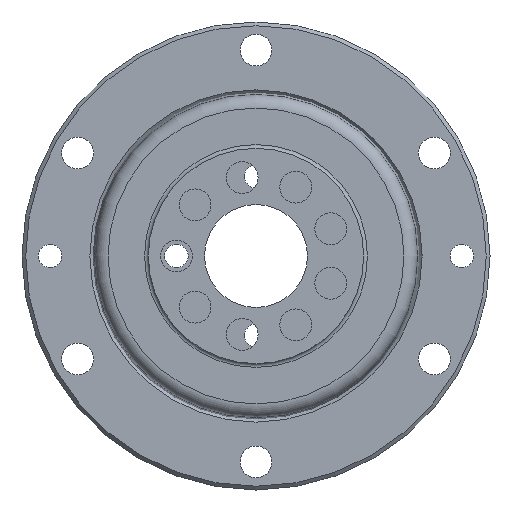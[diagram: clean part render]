
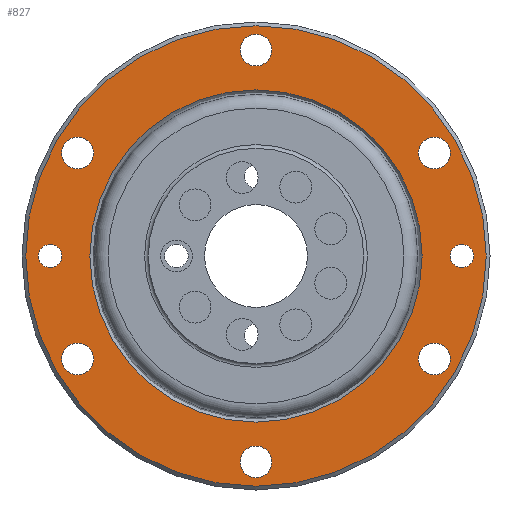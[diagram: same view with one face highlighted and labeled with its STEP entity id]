
A CAD part, left-side view. The second image highlights one B-rep face of the part: STEP entity #827.
In plain terms, the highlighted planar face has unit normal (-1, 0, 0).
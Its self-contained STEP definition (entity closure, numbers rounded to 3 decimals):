
#18 = CARTESIAN_POINT ( 'NONE',  ( 6.5, -19.053, 12.7 ) ) ;
#47 = VERTEX_POINT ( 'NONE', #2122 ) ;
#62 = FACE_OUTER_BOUND ( 'NONE', #271, .T. ) ;
#210 = EDGE_LOOP ( 'NONE', ( #3764 ) ) ;
#271 = EDGE_LOOP ( 'NONE', ( #3661 ) ) ;
#389 = AXIS2_PLACEMENT_3D ( 'NONE', #4024, #2137, #1169 ) ;
#396 = EDGE_LOOP ( 'NONE', ( #977 ) ) ;
#451 = CARTESIAN_POINT ( 'NONE',  ( 6.5, -22., 0. ) ) ;
#468 = CARTESIAN_POINT ( 'NONE',  ( 6.5, 0., -24.6 ) ) ;
#530 = AXIS2_PLACEMENT_3D ( 'NONE', #3276, #802, #3706 ) ;
#556 = AXIS2_PLACEMENT_3D ( 'NONE', #727, #3634, #3611 ) ;
#597 = ORIENTED_EDGE ( 'NONE', *, *, #1243, .T. ) ;
#622 = AXIS2_PLACEMENT_3D ( 'NONE', #3490, #1017, #3916 ) ;
#628 = CIRCLE ( 'NONE', #657, 1.7 ) ;
#629 = AXIS2_PLACEMENT_3D ( 'NONE', #451, #3342, #865 ) ;
#657 = AXIS2_PLACEMENT_3D ( 'NONE', #1171, #4072, #1572 ) ;
#718 = CIRCLE ( 'NONE', #389, 1.7 ) ;
#727 = CARTESIAN_POINT ( 'NONE',  ( 6.5, 19.053, -11. ) ) ;
#790 = EDGE_CURVE ( 'NONE', #2840, #2840, #1173, .T. ) ;
#802 = DIRECTION ( 'NONE',  ( 1., 0., 0. ) ) ;
#810 = CARTESIAN_POINT ( 'NONE',  ( 6.5, -1.472, -22.85 ) ) ;
#823 = DIRECTION ( 'NONE',  ( 0., 0., -1. ) ) ;
#827 = ADVANCED_FACE ( 'NONE', ( #62, #5348, #2132, #3114, #2013, #908, #5211, #4095, #2974, #1881 ), #4715, .F. ) ;
#865 = DIRECTION ( 'NONE',  ( 0., 0., -1. ) ) ;
#908 = FACE_BOUND ( 'NONE', #1702, .T. ) ;
#912 = AXIS2_PLACEMENT_3D ( 'NONE', #4305, #4066, #4007 ) ;
#962 = EDGE_LOOP ( 'NONE', ( #5056 ) ) ;
#968 = EDGE_CURVE ( 'NONE', #2707, #2707, #4546, .T. ) ;
#977 = ORIENTED_EDGE ( 'NONE', *, *, #968, .T. ) ;
#1017 = DIRECTION ( 'NONE',  ( 1., 0., 0. ) ) ;
#1072 = EDGE_CURVE ( 'NONE', #4794, #4794, #718, .T. ) ;
#1169 = DIRECTION ( 'NONE',  ( 0., -0.866, -0.5 ) ) ;
#1171 = CARTESIAN_POINT ( 'NONE',  ( 6.5, -19.053, -11. ) ) ;
#1173 = CIRCLE ( 'NONE', #629, 1.25 ) ;
#1243 = EDGE_CURVE ( 'NONE', #3557, #3557, #4352, .T. ) ;
#1248 = CARTESIAN_POINT ( 'NONE',  ( 6.5, 0., 0. ) ) ;
#1375 = CARTESIAN_POINT ( 'NONE',  ( 6.5, 19.053, 11. ) ) ;
#1572 = DIRECTION ( 'NONE',  ( 0., -0.866, 0.5 ) ) ;
#1587 = CIRCLE ( 'NONE', #622, 1.7 ) ;
#1603 = EDGE_CURVE ( 'NONE', #2186, #2186, #3038, .T. ) ;
#1651 = CARTESIAN_POINT ( 'NONE',  ( 6.5, 22., -1.25 ) ) ;
#1660 = DIRECTION ( 'NONE',  ( 0., 0., -1. ) ) ;
#1702 = EDGE_LOOP ( 'NONE', ( #3720 ) ) ;
#1784 = DIRECTION ( 'NONE',  ( 0., 0.866, -0.5 ) ) ;
#1867 = CIRCLE ( 'NONE', #530, 1.7 ) ;
#1881 = FACE_BOUND ( 'NONE', #2528, .T. ) ;
#2013 = FACE_BOUND ( 'NONE', #210, .T. ) ;
#2049 = CARTESIAN_POINT ( 'NONE',  ( 6.5, 19.053, -12.7 ) ) ;
#2122 = CARTESIAN_POINT ( 'NONE',  ( 6.5, 1.472, 22.85 ) ) ;
#2132 = FACE_BOUND ( 'NONE', #3187, .T. ) ;
#2137 = DIRECTION ( 'NONE',  ( 1., 0., 0. ) ) ;
#2152 = EDGE_LOOP ( 'NONE', ( #4982 ) ) ;
#2186 = VERTEX_POINT ( 'NONE', #1651 ) ;
#2274 = EDGE_LOOP ( 'NONE', ( #3140 ) ) ;
#2338 = CARTESIAN_POINT ( 'NONE',  ( 6.5, 0., 0. ) ) ;
#2416 = CIRCLE ( 'NONE', #4822, 24.6 ) ;
#2528 = EDGE_LOOP ( 'NONE', ( #597 ) ) ;
#2697 = AXIS2_PLACEMENT_3D ( 'NONE', #2338, #5156, #4863 ) ;
#2707 = VERTEX_POINT ( 'NONE', #2864 ) ;
#2840 = VERTEX_POINT ( 'NONE', #4526 ) ;
#2864 = CARTESIAN_POINT ( 'NONE',  ( 6.5, 0., -17.75 ) ) ;
#2918 = CARTESIAN_POINT ( 'NONE',  ( 6.5, 17.35, 0. ) ) ;
#2974 = FACE_BOUND ( 'NONE', #2152, .T. ) ;
#3004 = EDGE_CURVE ( 'NONE', #3888, #3888, #1867, .T. ) ;
#3038 = CIRCLE ( 'NONE', #912, 1.25 ) ;
#3085 = ORIENTED_EDGE ( 'NONE', *, *, #4110, .T. ) ;
#3114 = FACE_BOUND ( 'NONE', #962, .T. ) ;
#3140 = ORIENTED_EDGE ( 'NONE', *, *, #4029, .T. ) ;
#3187 = EDGE_LOOP ( 'NONE', ( #4892 ) ) ;
#3276 = CARTESIAN_POINT ( 'NONE',  ( 6.5, -19.053, 11. ) ) ;
#3342 = DIRECTION ( 'NONE',  ( 1., 0., 0. ) ) ;
#3361 = VERTEX_POINT ( 'NONE', #4198 ) ;
#3482 = VERTEX_POINT ( 'NONE', #468 ) ;
#3490 = CARTESIAN_POINT ( 'NONE',  ( 6.5, 0., 22. ) ) ;
#3557 = VERTEX_POINT ( 'NONE', #2049 ) ;
#3567 = EDGE_CURVE ( 'NONE', #4724, #4724, #628, .T. ) ;
#3611 = DIRECTION ( 'NONE',  ( 0., 0., -1. ) ) ;
#3634 = DIRECTION ( 'NONE',  ( 1., 0., 0. ) ) ;
#3661 = ORIENTED_EDGE ( 'NONE', *, *, #3671, .T. ) ;
#3671 = EDGE_CURVE ( 'NONE', #3482, #3482, #2416, .T. ) ;
#3685 = AXIS2_PLACEMENT_3D ( 'NONE', #2918, #4269, #823 ) ;
#3706 = DIRECTION ( 'NONE',  ( 0., 0., 1. ) ) ;
#3720 = ORIENTED_EDGE ( 'NONE', *, *, #3004, .T. ) ;
#3764 = ORIENTED_EDGE ( 'NONE', *, *, #3567, .T. ) ;
#3888 = VERTEX_POINT ( 'NONE', #18 ) ;
#3916 = DIRECTION ( 'NONE',  ( 0., 0.866, 0.5 ) ) ;
#3932 = CIRCLE ( 'NONE', #4068, 1.7 ) ;
#4007 = DIRECTION ( 'NONE',  ( 0., 0., -1. ) ) ;
#4024 = CARTESIAN_POINT ( 'NONE',  ( 6.5, 0., -22. ) ) ;
#4029 = EDGE_CURVE ( 'NONE', #3361, #3361, #3932, .T. ) ;
#4066 = DIRECTION ( 'NONE',  ( 1., 0., 0. ) ) ;
#4068 = AXIS2_PLACEMENT_3D ( 'NONE', #1375, #4291, #1784 ) ;
#4072 = DIRECTION ( 'NONE',  ( 1., 0., 0. ) ) ;
#4095 = FACE_BOUND ( 'NONE', #2274, .T. ) ;
#4110 = EDGE_CURVE ( 'NONE', #47, #47, #1587, .T. ) ;
#4170 = DIRECTION ( 'NONE',  ( -1., 0., 0. ) ) ;
#4198 = CARTESIAN_POINT ( 'NONE',  ( 6.5, 20.525, 10.15 ) ) ;
#4269 = DIRECTION ( 'NONE',  ( 1., 0., 0. ) ) ;
#4291 = DIRECTION ( 'NONE',  ( 1., 0., 0. ) ) ;
#4305 = CARTESIAN_POINT ( 'NONE',  ( 6.5, 22., 0. ) ) ;
#4352 = CIRCLE ( 'NONE', #556, 1.7 ) ;
#4526 = CARTESIAN_POINT ( 'NONE',  ( 6.5, -22., -1.25 ) ) ;
#4546 = CIRCLE ( 'NONE', #2697, 17.75 ) ;
#4607 = CARTESIAN_POINT ( 'NONE',  ( 6.5, -20.525, -10.15 ) ) ;
#4715 = PLANE ( 'NONE',  #3685 ) ;
#4724 = VERTEX_POINT ( 'NONE', #4607 ) ;
#4794 = VERTEX_POINT ( 'NONE', #810 ) ;
#4822 = AXIS2_PLACEMENT_3D ( 'NONE', #1248, #4170, #1660 ) ;
#4863 = DIRECTION ( 'NONE',  ( 0., 0., -1. ) ) ;
#4892 = ORIENTED_EDGE ( 'NONE', *, *, #1603, .T. ) ;
#4982 = ORIENTED_EDGE ( 'NONE', *, *, #1072, .T. ) ;
#5056 = ORIENTED_EDGE ( 'NONE', *, *, #790, .T. ) ;
#5156 = DIRECTION ( 'NONE',  ( 1., 0., 0. ) ) ;
#5211 = FACE_BOUND ( 'NONE', #5241, .T. ) ;
#5241 = EDGE_LOOP ( 'NONE', ( #3085 ) ) ;
#5348 = FACE_BOUND ( 'NONE', #396, .T. ) ;
